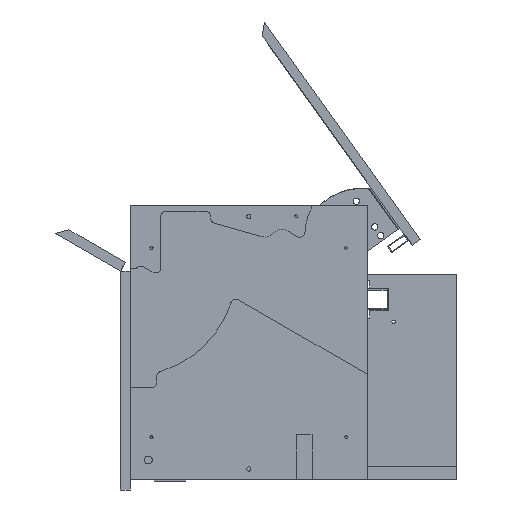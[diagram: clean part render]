
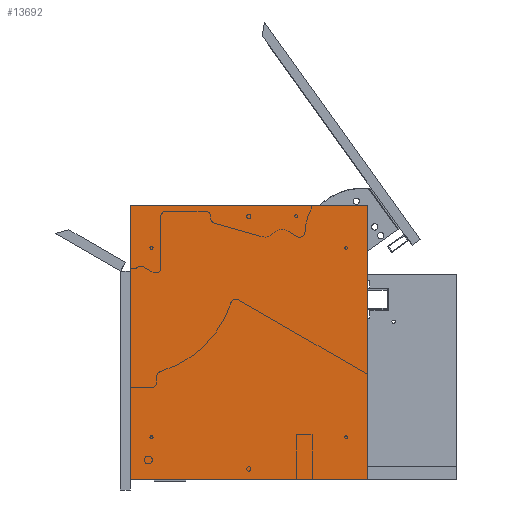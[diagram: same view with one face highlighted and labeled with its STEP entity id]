
A CAD part, left-side view. The second image highlights one B-rep face of the part: STEP entity #13692.
In plain terms, the highlighted planar face has unit normal (-1, 0, 0) as drawn and (0, -1, 0) by its records, which use the part's own axes.
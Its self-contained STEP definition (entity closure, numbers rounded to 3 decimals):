
#1097 = EDGE_CURVE ( 'NONE', #11801, #22458, #17533, .T. ) ;
#1710 = EDGE_CURVE ( 'NONE', #11141, #17108, #31483, .T. ) ;
#2050 = ORIENTED_EDGE ( 'NONE', *, *, #1097, .F. ) ;
#2999 = CARTESIAN_POINT ( 'NONE',  ( -260., 0., -225. ) ) ;
#3929 = CARTESIAN_POINT ( 'NONE',  ( 260., 0., 225. ) ) ;
#5804 = EDGE_LOOP ( 'NONE', ( #2050, #21708, #36429, #10523 ) ) ;
#6870 = CARTESIAN_POINT ( 'NONE',  ( 0., 0., 0. ) ) ;
#7058 = PLANE ( 'NONE',  #9308 ) ;
#8982 = CARTESIAN_POINT ( 'NONE',  ( 260., 0., 225. ) ) ;
#9308 = AXIS2_PLACEMENT_3D ( 'NONE', #6870, #21746, #18552 ) ;
#9544 = VECTOR ( 'NONE', #26486, 1000. ) ;
#10218 = CARTESIAN_POINT ( 'NONE',  ( -260., 0., 225. ) ) ;
#10342 = CARTESIAN_POINT ( 'NONE',  ( 260., 0., -225. ) ) ;
#10523 = ORIENTED_EDGE ( 'NONE', *, *, #36045, .F. ) ;
#11141 = VERTEX_POINT ( 'NONE', #2999 ) ;
#11657 = VECTOR ( 'NONE', #28628, 1000. ) ;
#11735 = VECTOR ( 'NONE', #31665, 1000. ) ;
#11801 = VERTEX_POINT ( 'NONE', #3929 ) ;
#11826 = CARTESIAN_POINT ( 'NONE',  ( -260., 0., 225. ) ) ;
#13692 = ADVANCED_FACE ( 'NONE', ( #36830 ), #7058, .T. ) ;
#16543 = CARTESIAN_POINT ( 'NONE',  ( -260., 0., -225. ) ) ;
#17108 = VERTEX_POINT ( 'NONE', #10218 ) ;
#17533 = LINE ( 'NONE', #8982, #25869 ) ;
#18552 = DIRECTION ( 'NONE',  ( 0., 0., -1. ) ) ;
#18991 = CARTESIAN_POINT ( 'NONE',  ( -260., 0., 225. ) ) ;
#20495 = DIRECTION ( 'NONE',  ( 0., 0., -1. ) ) ;
#21708 = ORIENTED_EDGE ( 'NONE', *, *, #28971, .F. ) ;
#21746 = DIRECTION ( 'NONE',  ( 0., -1., 0. ) ) ;
#22458 = VERTEX_POINT ( 'NONE', #10342 ) ;
#25869 = VECTOR ( 'NONE', #20495, 1000. ) ;
#26486 = DIRECTION ( 'NONE',  ( 1., 0., 0. ) ) ;
#28628 = DIRECTION ( 'NONE',  ( -1., 0., 0. ) ) ;
#28971 = EDGE_CURVE ( 'NONE', #17108, #11801, #36407, .T. ) ;
#31483 = LINE ( 'NONE', #18991, #11735 ) ;
#31665 = DIRECTION ( 'NONE',  ( 0., 0., 1. ) ) ;
#36045 = EDGE_CURVE ( 'NONE', #22458, #11141, #37199, .T. ) ;
#36407 = LINE ( 'NONE', #11826, #9544 ) ;
#36429 = ORIENTED_EDGE ( 'NONE', *, *, #1710, .F. ) ;
#36830 = FACE_OUTER_BOUND ( 'NONE', #5804, .T. ) ;
#37199 = LINE ( 'NONE', #16543, #11657 ) ;
